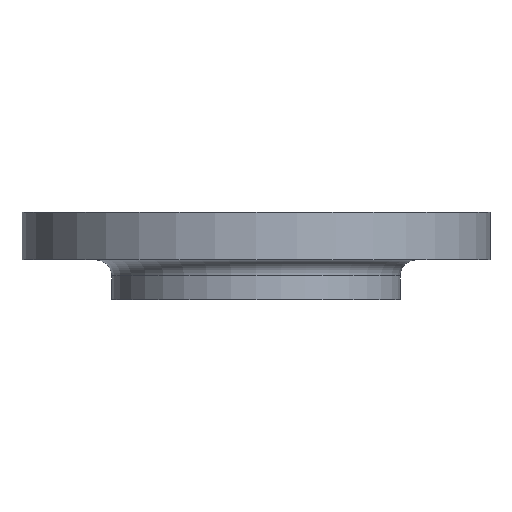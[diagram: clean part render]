
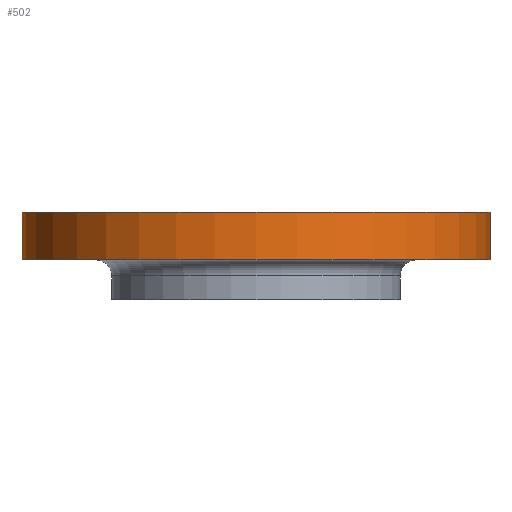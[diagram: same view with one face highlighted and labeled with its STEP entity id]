
A CAD part, front view. The second image highlights one B-rep face of the part: STEP entity #502.
In plain terms, the highlighted cylindrical face has radius 117.5 mm (diameter 235 mm), a partial arc.
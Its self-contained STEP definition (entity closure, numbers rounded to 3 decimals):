
#35 = VECTOR ( 'NONE', #325, 1000. ) ;
#44 = VECTOR ( 'NONE', #644, 1000. ) ;
#65 = AXIS2_PLACEMENT_3D ( 'NONE', #643, #445, #419 ) ;
#73 = CIRCLE ( 'NONE', #75, 117.5 ) ;
#75 = AXIS2_PLACEMENT_3D ( 'NONE', #189, #188, #186 ) ;
#133 = CARTESIAN_POINT ( 'NONE',  ( 117.5, 0., -24. ) ) ;
#162 = AXIS2_PLACEMENT_3D ( 'NONE', #233, #230, #226 ) ;
#186 = DIRECTION ( 'NONE',  ( 1., 0., 0. ) ) ;
#188 = DIRECTION ( 'NONE',  ( 0., 0., 1. ) ) ;
#189 = CARTESIAN_POINT ( 'NONE',  ( 0., 0., -24. ) ) ;
#226 = DIRECTION ( 'NONE',  ( 1., 0., 0. ) ) ;
#230 = DIRECTION ( 'NONE',  ( 0., 0., 1. ) ) ;
#233 = CARTESIAN_POINT ( 'NONE',  ( 0., 0., 0. ) ) ;
#252 = CARTESIAN_POINT ( 'NONE',  ( -117.5, 0., -24. ) ) ;
#269 = CARTESIAN_POINT ( 'NONE',  ( -117.5, 0., 0. ) ) ;
#291 = CARTESIAN_POINT ( 'NONE',  ( 117.5, 0., 0. ) ) ;
#325 = DIRECTION ( 'NONE',  ( 0., 0., 1. ) ) ;
#326 = CARTESIAN_POINT ( 'NONE',  ( -117.5, 0., -75. ) ) ;
#342 = LINE ( 'NONE', #326, #35 ) ;
#416 = CARTESIAN_POINT ( 'NONE',  ( 117.5, 0., -75. ) ) ;
#419 = DIRECTION ( 'NONE',  ( 1., 0., 0. ) ) ;
#421 = FACE_OUTER_BOUND ( 'NONE', #903, .T. ) ;
#445 = DIRECTION ( 'NONE',  ( 0., 0., 1. ) ) ;
#448 = CYLINDRICAL_SURFACE ( 'NONE', #65, 117.5 ) ;
#449 = EDGE_CURVE ( 'NONE', #934, #691, #664, .T. ) ;
#466 = CIRCLE ( 'NONE', #162, 117.5 ) ;
#502 = ADVANCED_FACE ( 'NONE', ( #421 ), #448, .T. ) ;
#643 = CARTESIAN_POINT ( 'NONE',  ( 0., 0., -75. ) ) ;
#644 = DIRECTION ( 'NONE',  ( 0., 0., 1. ) ) ;
#664 = LINE ( 'NONE', #416, #44 ) ;
#665 = EDGE_CURVE ( 'NONE', #720, #700, #342, .T. ) ;
#691 = VERTEX_POINT ( 'NONE', #291 ) ;
#700 = VERTEX_POINT ( 'NONE', #269 ) ;
#720 = VERTEX_POINT ( 'NONE', #252 ) ;
#776 = EDGE_CURVE ( 'NONE', #700, #691, #466, .T. ) ;
#780 = ORIENTED_EDGE ( 'NONE', *, *, #665, .F. ) ;
#781 = ORIENTED_EDGE ( 'NONE', *, *, #850, .T. ) ;
#783 = ORIENTED_EDGE ( 'NONE', *, *, #449, .T. ) ;
#787 = ORIENTED_EDGE ( 'NONE', *, *, #776, .F. ) ;
#850 = EDGE_CURVE ( 'NONE', #720, #934, #73, .T. ) ;
#903 = EDGE_LOOP ( 'NONE', ( #780, #781, #783, #787 ) ) ;
#934 = VERTEX_POINT ( 'NONE', #133 ) ;
